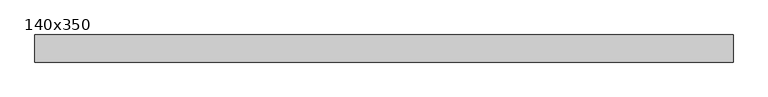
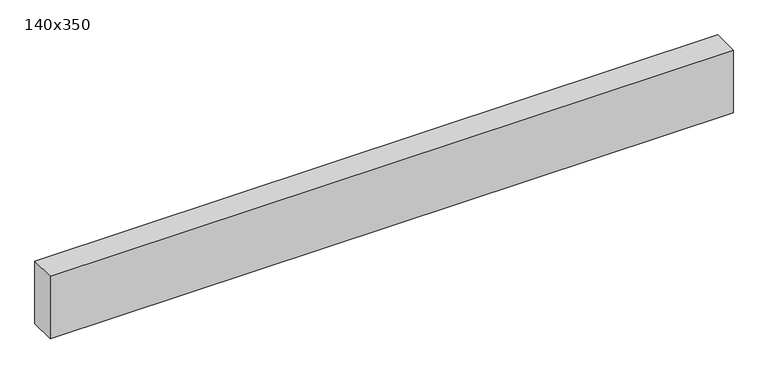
"""IFC4 building model written with IfcOpenShell, lengths in millimetres: beam geometry, Bjelke Limtre Stiplet : 140x350."""

from ifc_helpers import new_model, si_unit, frame, origin, place, context, project, spatial, polyline, outline, extrude, source, transform, mapped, element, save


def beam_140x350_096fe9c8(model_context):
    return source(origin(), model_context, "Body", "SweptSolid", [
        extrude(outline(polyline([(1803.6667849, 70.0), (1803.6667849, -70.0), (-1803.6667849, -70.0), (-1803.6667849, 70.0), (1803.6667849, 70.0)])), frame((0.0, 0.0, -301.0), z_axis=(0.0, 0.0, 1.0), x_axis=(1.0, 0.0, 0.0)), (0.0, 0.0, 1.0), 350.0),
    ])


if __name__ == "__main__":
    model = new_model("IFC4")
    model_context = context("Model", 3, world=origin())
    ifc_project = project(units=[si_unit("LENGTHUNIT", "METRE", prefix="MILLI")], contexts=[model_context])
    site = spatial("IfcSite", under=ifc_project)
    building = spatial("IfcBuilding", under=site)
    placement = place(None, origin())
    beam_140x350_shape = beam_140x350_096fe9c8(model_context)
    element("IfcBeam", 1, ObjectType="Bjelke Limtre Stiplet : 140x350", at=placement, inside=building, context=model_context, shape_type="MappedRepresentation", body=[
        mapped(beam_140x350_shape, transform((0.0, 0.0, 0.0), x_axis=(1.0, 0.0, 0.0), y_axis=(0.0, 1.0, 0.0), z_axis=(0.0, 0.0, 1.0))),
    ])
    save(model, "model.ifc")
